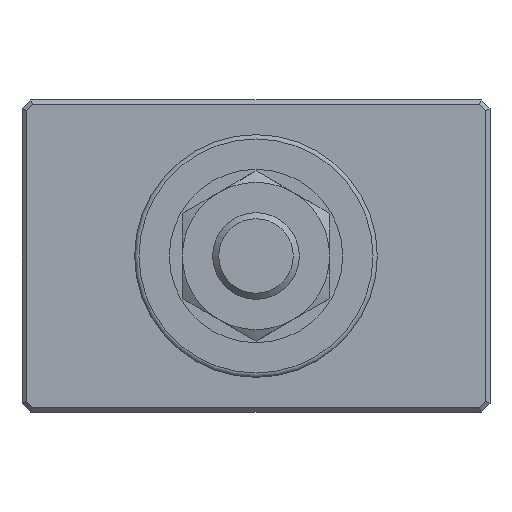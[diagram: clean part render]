
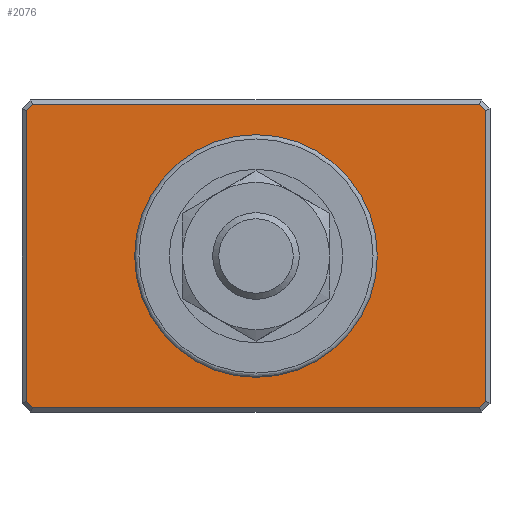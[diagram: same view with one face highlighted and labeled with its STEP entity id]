
A CAD part, front view. The second image highlights one B-rep face of the part: STEP entity #2076.
In plain terms, the highlighted planar face has unit normal (0, -1, 0).
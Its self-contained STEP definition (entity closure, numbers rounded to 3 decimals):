
#1765=CARTESIAN_POINT('',(26.5,-17.,16.793));
#1766=VERTEX_POINT('',#1765);
#1773=CARTESIAN_POINT('',(26.5,-17.,-16.793));
#1774=VERTEX_POINT('',#1773);
#1775=CARTESIAN_POINT('',(26.5,-17.,16.793));
#1776=DIRECTION('',(0.0,0.0,-1.0));
#1777=VECTOR('',#1776,33.586);
#1778=LINE('',#1775,#1777);
#1779=EDGE_CURVE('',#1766,#1774,#1778,.T.);
#1795=CARTESIAN_POINT('',(25.793,-17.,17.5));
#1796=VERTEX_POINT('',#1795);
#1797=CARTESIAN_POINT('',(25.793,-17.,17.5));
#1798=DIRECTION('',(0.707,0.0,-0.707));
#1799=VECTOR('',#1798,1.);
#1800=LINE('',#1797,#1799);
#1801=EDGE_CURVE('',#1796,#1766,#1800,.T.);
#1819=CARTESIAN_POINT('',(-25.793,-17.,17.5));
#1820=VERTEX_POINT('',#1819);
#1821=CARTESIAN_POINT('',(-25.793,-17.,17.5));
#1822=DIRECTION('',(1.0,0.0,0.0));
#1823=VECTOR('',#1822,51.586);
#1824=LINE('',#1821,#1823);
#1825=EDGE_CURVE('',#1820,#1796,#1824,.T.);
#1843=CARTESIAN_POINT('',(-25.793,-17.,-17.5));
#1844=VERTEX_POINT('',#1843);
#1845=CARTESIAN_POINT('',(-26.5,-17.,-16.793));
#1846=VERTEX_POINT('',#1845);
#1847=CARTESIAN_POINT('',(-25.793,-17.,-17.5));
#1848=DIRECTION('',(-0.707,0.0,0.707));
#1849=VECTOR('',#1848,1.);
#1850=LINE('',#1847,#1849);
#1851=EDGE_CURVE('',#1844,#1846,#1850,.T.);
#1890=CARTESIAN_POINT('',(-26.5,-17.,16.793));
#1891=VERTEX_POINT('',#1890);
#1892=CARTESIAN_POINT('',(-26.5,-17.,-16.793));
#1893=DIRECTION('',(0.0,0.0,1.0));
#1894=VECTOR('',#1893,33.586);
#1895=LINE('',#1892,#1894);
#1896=EDGE_CURVE('',#1846,#1891,#1895,.T.);
#1912=CARTESIAN_POINT('',(-26.5,-17.,16.793));
#1913=DIRECTION('',(0.707,0.0,0.707));
#1914=VECTOR('',#1913,1.);
#1915=LINE('',#1912,#1914);
#1916=EDGE_CURVE('',#1891,#1820,#1915,.T.);
#1929=CARTESIAN_POINT('',(25.793,-17.,-17.5));
#1930=VERTEX_POINT('',#1929);
#1931=CARTESIAN_POINT('',(25.793,-17.,-17.5));
#1932=DIRECTION('',(-1.0,0.0,0.0));
#1933=VECTOR('',#1932,51.586);
#1934=LINE('',#1931,#1933);
#1935=EDGE_CURVE('',#1930,#1844,#1934,.T.);
#1960=CARTESIAN_POINT('',(26.5,-17.,-16.793));
#1961=DIRECTION('',(-0.707,0.0,-0.707));
#1962=VECTOR('',#1961,1.);
#1963=LINE('',#1960,#1962);
#1964=EDGE_CURVE('',#1774,#1930,#1963,.T.);
#2050=CARTESIAN_POINT('',(0.0,-17.,-18.));
#2051=DIRECTION('',(0.0,-1.0,0.0));
#2052=DIRECTION('',(0.0,0.0,-1.0));
#2053=AXIS2_PLACEMENT_3D('',#2050,#2051,#2052);
#2054=PLANE('',#2053);
#2055=ORIENTED_EDGE('',*,*,#1851,.F.);
#2056=ORIENTED_EDGE('',*,*,#1935,.F.);
#2057=ORIENTED_EDGE('',*,*,#1964,.F.);
#2058=ORIENTED_EDGE('',*,*,#1779,.F.);
#2059=ORIENTED_EDGE('',*,*,#1801,.F.);
#2060=ORIENTED_EDGE('',*,*,#1825,.F.);
#2061=ORIENTED_EDGE('',*,*,#1916,.F.);
#2062=ORIENTED_EDGE('',*,*,#1896,.F.);
#2063=EDGE_LOOP('',(#2055,#2056,#2057,#2058,#2059,#2060,#2061,#2062));
#2064=FACE_OUTER_BOUND('',#2063,.T.);
#2065=CARTESIAN_POINT('',(0.0,-17.,14.));
#2066=VERTEX_POINT('',#2065);
#2067=CARTESIAN_POINT('',(0.0,-17.,0.0));
#2068=DIRECTION('',(0.0,1.0,0.0));
#2069=DIRECTION('',(0.0,0.0,1.0));
#2070=AXIS2_PLACEMENT_3D('',#2067,#2068,#2069);
#2071=CIRCLE('',#2070,14.);
#2072=EDGE_CURVE('',#2066,#2066,#2071,.T.);
#2073=ORIENTED_EDGE('',*,*,#2072,.T.);
#2074=EDGE_LOOP('',(#2073));
#2075=FACE_BOUND('',#2074,.T.);
#2076=ADVANCED_FACE('',(#2064,#2075),#2054,.T.);
